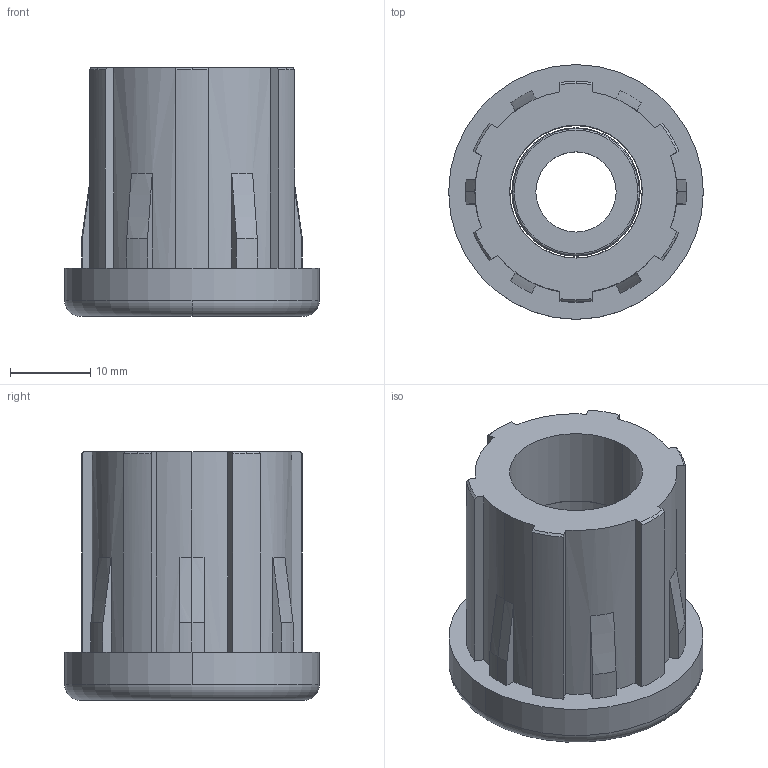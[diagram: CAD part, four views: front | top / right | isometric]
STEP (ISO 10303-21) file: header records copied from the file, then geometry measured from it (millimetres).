
FILE_DESCRIPTION (( 'STEP AP214' ), '1' );
FILE_NAME ('42006835210.STEP', '2020-02-25T17:48:50', ( '' ), ( '' ), 'SwSTEP 2.0', 'SolidWorks 2018', '' );
FILE_SCHEMA (( 'AUTOMOTIVE_DESIGN' ));
Length unit declared in the file: millimetre
Products named in the file (5): 42006835210; 68_7237.stp; BC_M10.stp; Component1.stp; 42006835210.stp
Assembly tree (4 placements, depth 4):
  42006835210
    42006835210.stp
      68_7237.stp
        Component1.stp
      BC_M10.stp
Bounding box: 31.75 x 31.75 x 31 mm (x, y, z)
Volume: 11450.8 mm3; surface area: 6836.9 mm2
Topology: 2 solids, 2 shells, 97 faces, 256 edges, 166 vertices
Faces by surface type: cylinder 36, plane 31, cone 26, torus 4
Entity records: 3228 total; most frequent: DIRECTION 584, CARTESIAN_POINT 564, ORIENTED_EDGE 512, EDGE_CURVE 256, AXIS2_PLACEMENT_3D 234, VERTEX_POINT 166, CIRCLE 128, VECTOR 116
